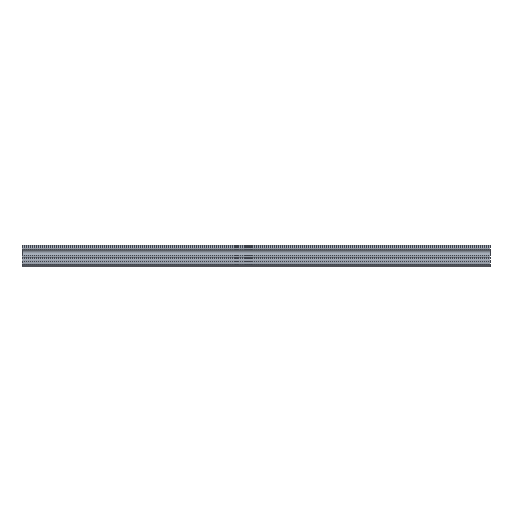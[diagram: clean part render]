
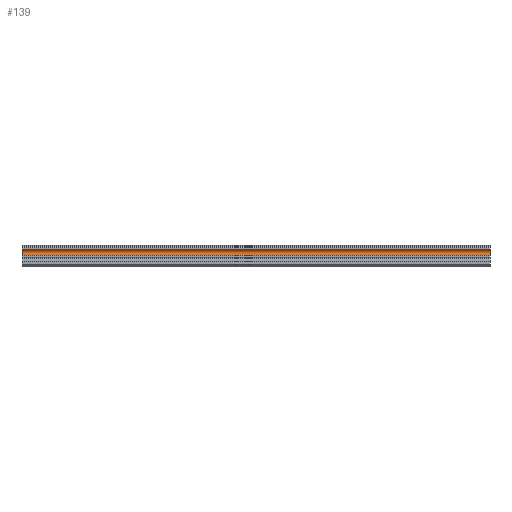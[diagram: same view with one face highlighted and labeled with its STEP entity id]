
A CAD part, top view. The second image highlights one B-rep face of the part: STEP entity #139.
In plain terms, the highlighted cylindrical face has radius 3.1 mm (diameter 6.2 mm), a partial arc.
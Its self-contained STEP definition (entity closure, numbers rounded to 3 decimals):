
#58 = CARTESIAN_POINT ( 'NONE',  ( 0., 14.6, 10.3 ) ) ;
#139 = ADVANCED_FACE ( 'NONE', ( #2234 ), #717, .F. ) ;
#262 = CIRCLE ( 'NONE', #1972, 3.1 ) ;
#282 = EDGE_CURVE ( 'NONE', #1668, #1996, #361, .T. ) ;
#361 = LINE ( 'NONE', #1711, #1084 ) ;
#370 = AXIS2_PLACEMENT_3D ( 'NONE', #58, #1776, #912 ) ;
#526 = CARTESIAN_POINT ( 'NONE',  ( 480., 14.6, 10.3 ) ) ;
#699 = DIRECTION ( 'NONE',  ( -1., 0., 0. ) ) ;
#717 = CYLINDRICAL_SURFACE ( 'NONE', #1402, 3.1 ) ;
#746 = VERTEX_POINT ( 'NONE', #2175 ) ;
#912 = DIRECTION ( 'NONE',  ( 0., 0., -1. ) ) ;
#922 = ORIENTED_EDGE ( 'NONE', *, *, #1158, .F. ) ;
#1050 = DIRECTION ( 'NONE',  ( -1., 0., 0. ) ) ;
#1066 = DIRECTION ( 'NONE',  ( 0., 0., -1. ) ) ;
#1084 = VECTOR ( 'NONE', #2608, 1000. ) ;
#1148 = CIRCLE ( 'NONE', #370, 3.1 ) ;
#1158 = EDGE_CURVE ( 'NONE', #746, #1668, #262, .T. ) ;
#1207 = CARTESIAN_POINT ( 'NONE',  ( 480., 11.515, 10. ) ) ;
#1333 = CARTESIAN_POINT ( 'NONE',  ( 480., 17.685, 10. ) ) ;
#1335 = CARTESIAN_POINT ( 'NONE',  ( 0., 11.515, 10. ) ) ;
#1402 = AXIS2_PLACEMENT_3D ( 'NONE', #526, #1813, #2740 ) ;
#1668 = VERTEX_POINT ( 'NONE', #1207 ) ;
#1705 = ORIENTED_EDGE ( 'NONE', *, *, #2509, .T. ) ;
#1711 = CARTESIAN_POINT ( 'NONE',  ( 480., 11.515, 10. ) ) ;
#1776 = DIRECTION ( 'NONE',  ( -1., 0., 0. ) ) ;
#1789 = VECTOR ( 'NONE', #699, 1000. ) ;
#1813 = DIRECTION ( 'NONE',  ( -1., 0., 0. ) ) ;
#1818 = LINE ( 'NONE', #1333, #1789 ) ;
#1876 = CARTESIAN_POINT ( 'NONE',  ( 0., 17.685, 10. ) ) ;
#1934 = CARTESIAN_POINT ( 'NONE',  ( 480., 14.6, 10.3 ) ) ;
#1936 = ORIENTED_EDGE ( 'NONE', *, *, #282, .F. ) ;
#1972 = AXIS2_PLACEMENT_3D ( 'NONE', #1934, #1050, #1066 ) ;
#1996 = VERTEX_POINT ( 'NONE', #1335 ) ;
#2175 = CARTESIAN_POINT ( 'NONE',  ( 480., 17.685, 10. ) ) ;
#2234 = FACE_OUTER_BOUND ( 'NONE', #2725, .T. ) ;
#2456 = EDGE_CURVE ( 'NONE', #746, #2577, #1818, .T. ) ;
#2509 = EDGE_CURVE ( 'NONE', #2577, #1996, #1148, .T. ) ;
#2577 = VERTEX_POINT ( 'NONE', #1876 ) ;
#2608 = DIRECTION ( 'NONE',  ( -1., 0., 0. ) ) ;
#2648 = ORIENTED_EDGE ( 'NONE', *, *, #2456, .T. ) ;
#2725 = EDGE_LOOP ( 'NONE', ( #1705, #1936, #922, #2648 ) ) ;
#2740 = DIRECTION ( 'NONE',  ( 0., 0., 1. ) ) ;
